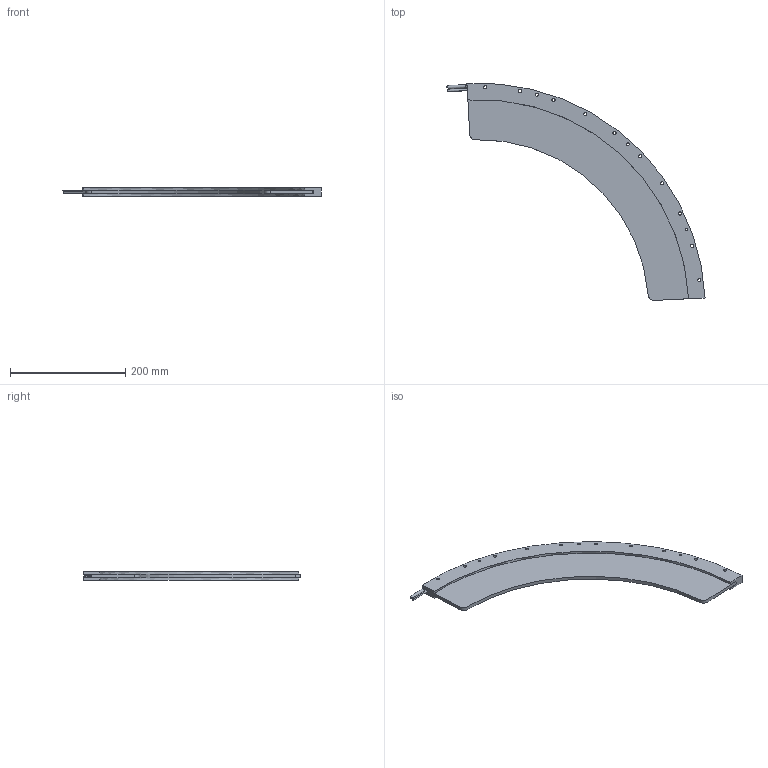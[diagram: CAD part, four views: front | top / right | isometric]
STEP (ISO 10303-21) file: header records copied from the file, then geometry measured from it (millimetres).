
FILE_DESCRIPTION (( 'STEP AP214' ), '1' );
FILE_NAME ('ARC280-C5 (CUSTOMER).step', '2021-07-23T08:18:54', ( '' ), ( '' ), 'SwSTEP 2.0', 'SolidWorks 2020', '' );
FILE_SCHEMA (( 'AUTOMOTIVE_DESIGN' ));
Length unit declared in the file: millimetre
Products named in the file (1): ARC280-C5 (CUSTOMER)
Bounding box: 448.11 x 376.55 x 15 mm (x, y, z)
Volume: 460639.3 mm3; surface area: 170933.6 mm2
Topology: 4 solids, 4 shells, 69 faces, 182 edges, 124 vertices
Faces by surface type: cylinder 45, plane 21, torus 2, bspline 1
Entity records: 3619 total; most frequent: CARTESIAN_POINT 988, DIRECTION 388, ORIENTED_EDGE 364, EDGE_CURVE 182, AXIS2_PLACEMENT_3D 160, VERTEX_POINT 124, EDGE_LOOP 98, CIRCLE 91
